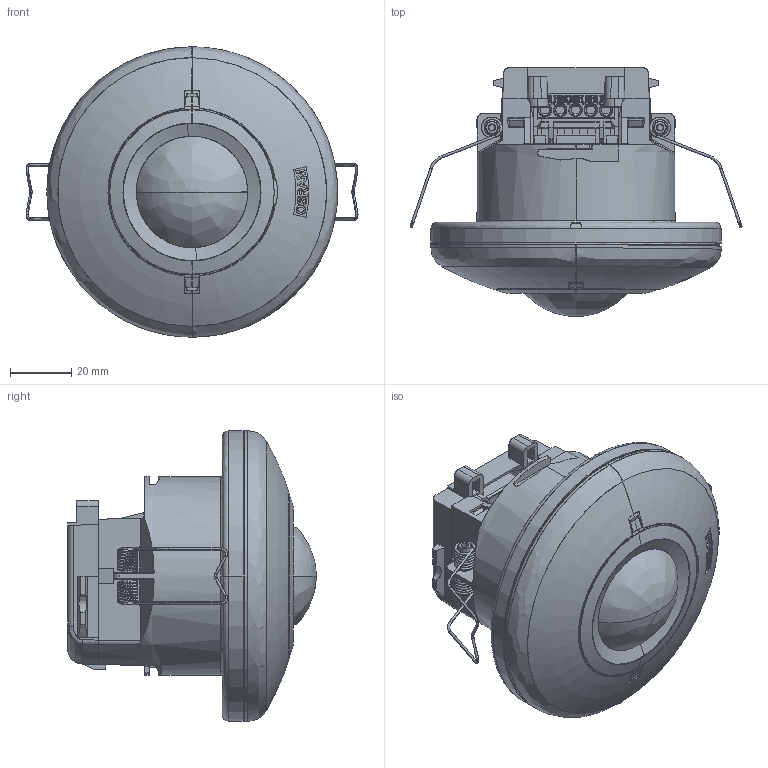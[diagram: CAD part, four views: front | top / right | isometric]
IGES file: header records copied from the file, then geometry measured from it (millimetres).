
Start section: SolidWorks IGES file using analytic representation for surfaces
Global section: file name: D:\ECTR_TEMP\OLQ-batchEngine\queue\temp\4161886swm000.igs; native system: SolidWorks 2017; preprocessor: SolidWorks 2017; author: SYSTEM; date: 191106.131540; units: millimetre
Bounding box: 108.64 x 81.41 x 95 mm (x, y, z)
Surface area: 46877.7 mm2 (no closed solid volume)
Topology: 0 solids, 0 shells, 1351 faces, 13219 edges, 13218 vertices
Faces by surface type: bspline 911, revolution 440
